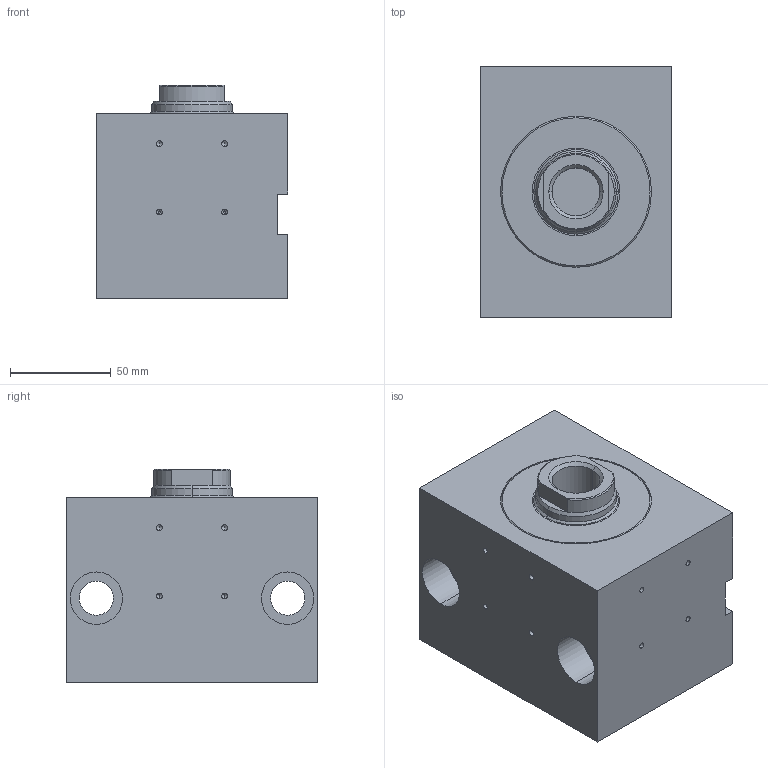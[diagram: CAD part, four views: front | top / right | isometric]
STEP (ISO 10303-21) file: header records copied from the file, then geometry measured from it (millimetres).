
FILE_DESCRIPTION (( 'STEP AP203' ), '1' );
FILE_NAME ('BZ_500.63_40.33.201.020 PP.NS50__DH_0_.STEP', '2022-05-30T15:00:10', ( '' ), ( '' ), 'SwSTEP 2.0', 'SolidWorks 2020', '' );
FILE_SCHEMA (( 'CONFIG_CONTROL_DESIGN' ));
Length unit declared in the file: millimetre
Products named in the file (7): _Dichtungssatz f. BZ_RZ_FZ.63_40.xx.201.20 Artikelnr._ 013832(0)^BZ_500.63_40.33.201.020 PP.NS50__DH_0_(2)_BZ_500.63_40.33.201.020 PP.NS50__DH_0_; BZ_500.63_40.33.201.020 PP.NS50__DH_0_; _Verschraubung komplett mit Dichtung f. BZ_RZ_FZ.63_40.201, Art.-Nr._ 042987(201)^BZ_500.63_40.33.201.020 PP.NS50__DH_0_(2)_BZ_500.63_40.33.201.020 PP.NS50__DH_0_; _Kolbenstange komplett f. BZ_RZ_FZ.63_40.xx.201.20(0_11 1 27 3 0 0 14 40 0 0 0)0^BZ_500.63_40.33.201.020 PP.NS50__DH_0_(2)_BZ_500.63_40.33.201.020 PP.NS50__DH_0_; _Gehaeuse f. BZ500.63_40.33.201.20.N1.m (m = Nut spiegelbildlich50)Nut rechts, Senkungen links00(150frei1330220))10^BZ_500.63_40.33.201.020 PP.NS50__DH_0_(2)_BZ_500.63_40.33.201.020 PP.NS50__D~; _O-Ring 9x2 - Art. 104351^BZ_500.63_40.33.201.020 PP.NS50__DH_0_(2)_BZ_500.63_40.33.201.020 PP.NS50__DH_0_; BZ_500.63_40.33.201.020 PP.NS50__DH_0_(2)^BZ_500.63_40.33.201.020 PP.NS50__DH_0_
Assembly tree (7 placements, depth 3):
  BZ_500.63_40.33.201.020 PP.NS50__DH_0_
    BZ_500.63_40.33.201.020 PP.NS50__DH_0_(2)^BZ_500.63_40.33.201.020 PP.NS50__DH_0_
      _Gehaeuse f. BZ500.63_40.33.201.20.N1.m (m = Nut spiegelbildlich50)Nut rechts, Senkungen links00(150frei1330220))10^BZ_500.63_40.33.201.020 PP.NS50__DH_0_(2)_BZ_500.63_40.33.201.020 PP.NS50__D~
      _Verschraubung komplett mit Dichtung f. BZ_RZ_FZ.63_40.201, Art.-Nr._ 042987(201)^BZ_500.63_40.33.201.020 PP.NS50__DH_0_(2)_BZ_500.63_40.33.201.020 PP.NS50__DH_0_
      _Dichtungssatz f. BZ_RZ_FZ.63_40.xx.201.20 Artikelnr._ 013832(0)^BZ_500.63_40.33.201.020 PP.NS50__DH_0_(2)_BZ_500.63_40.33.201.020 PP.NS50__DH_0_
      _Kolbenstange komplett f. BZ_RZ_FZ.63_40.xx.201.20(0_11 1 27 3 0 0 14 40 0 0 0)0^BZ_500.63_40.33.201.020 PP.NS50__DH_0_(2)_BZ_500.63_40.33.201.020 PP.NS50__DH_0_
      _O-Ring 9x2 - Art. 104351^BZ_500.63_40.33.201.020 PP.NS50__DH_0_(2)_BZ_500.63_40.33.201.020 PP.NS50__DH_0_  x2
Bounding box: 95 x 125 x 106 mm (x, y, z)
Volume: 985623 mm3; surface area: 138925.4 mm2
Topology: 6 solids, 6 shells, 153 faces, 345 edges, 208 vertices
Faces by surface type: cylinder 70, plane 37, cone 34, torus 12
Entity records: 4960 total; most frequent: CARTESIAN_POINT 863, DIRECTION 773, ORIENTED_EDGE 626, AXIS2_PLACEMENT_3D 320, EDGE_CURVE 313, VERTEX_POINT 198, EDGE_LOOP 187, CIRCLE 164
